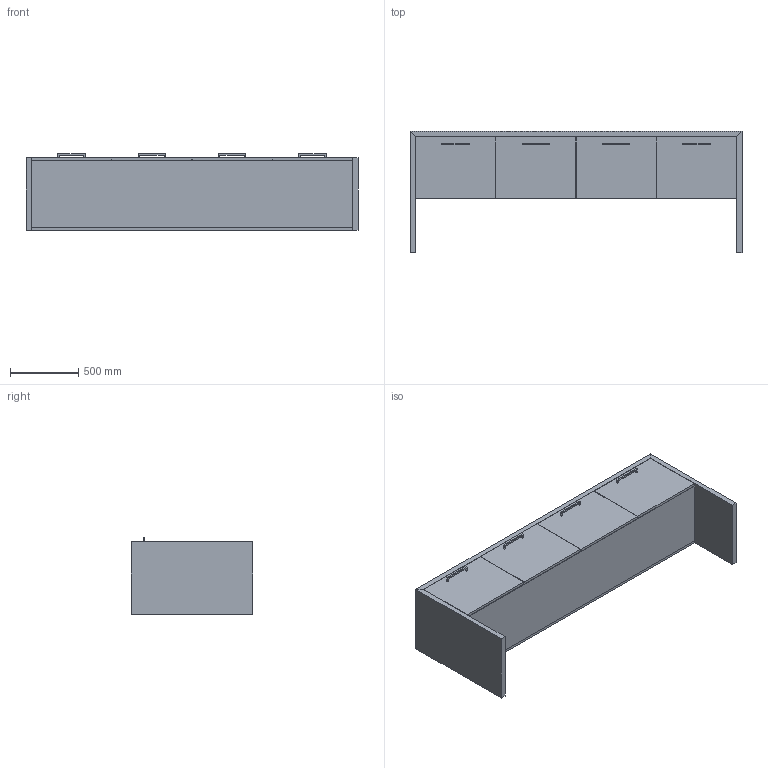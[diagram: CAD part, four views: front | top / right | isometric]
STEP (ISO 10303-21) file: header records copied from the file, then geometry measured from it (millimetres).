
FILE_DESCRIPTION(/* description */ ('','CAx-IF Rec.Pracs.---Representation and Presentation of Product Manufacturing Information (PMI)---4.0---2014-10-13'),/* implementation_level */ '2;1');
FILE_NAME(/* name */ 'CREDENZA STORAGE_FOUNDATION 2.stp',/* time_stamp */ '2024-12-07T18:18:15-05:00',/* author */ ('mbowman'),/* organization */ (''),/* preprocessor_version */ 'ST-DEVELOPER v19.2',/* originating_system */ 'Autodesk Inventor 2023',/* authorisation */ '');
FILE_SCHEMA (('AP242_MANAGED_MODEL_BASED_3D_ENGINEERING_MIM_LF { 1 0 10303 442 1 1 4 }'));
Length unit declared in the file: inch
Products named in the file (3): FOUNDATION^RAISED STORAGE CREDENZA_35x96 4 DOOR-PARTS SOLID; FOUNDATION^CONSOLE CREDENZA_35x96 4 DOOR-PARTS SOLID; SCHWINN-BAR PULL 2334.192
Assembly tree (5 placements, depth 2):
  FOUNDATION^RAISED STORAGE CREDENZA_35x96 4 DOOR-PARTS SOLID
    FOUNDATION^CONSOLE CREDENZA_35x96 4 DOOR-PARTS SOLID
    SCHWINN-BAR PULL 2334.192  x4
Bounding box: 2438.4 x 889 x 563.4 mm (x, y, z)
Volume: 159642307.3 mm3; surface area: 13325389 mm2
Topology: 16 solids, 16 shells, 112 faces, 240 edges, 160 vertices
Faces by surface type: plane 112
Entity records: 2635 total; most frequent: CARTESIAN_POINT 524, DIRECTION 364, ORIENTED_EDGE 336, LINE 168, VECTOR 168, EDGE_CURVE 168, VERTEX_POINT 112, STYLED_ITEM 98
